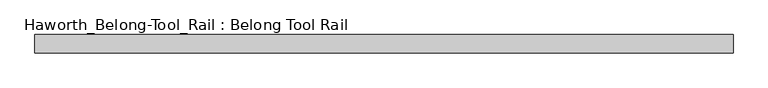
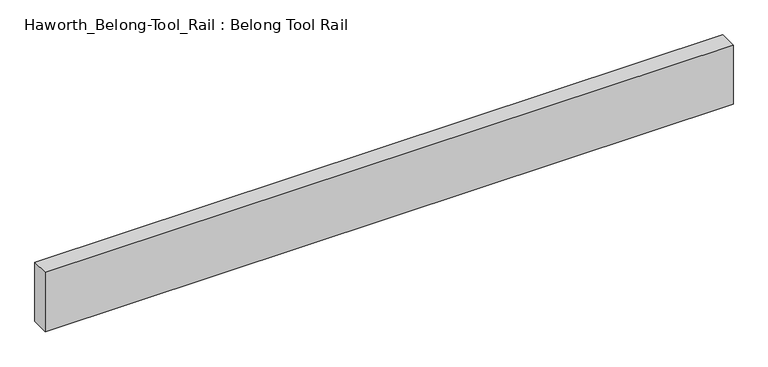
"""IFC4 building model written with IfcOpenShell, lengths in millimetres: furniture geometry, Haworth_Belong-Tool_Rail : Belong Tool Rail."""

from ifc_helpers import new_model, si_unit, frame, origin, place, context, project, spatial, polyline, outline, extrude, source, transform, mapped, element, save


def haworth_belong_tool_rail_belong_tool_rail_3fa934fc(model_context):
    return source(origin(), model_context, "Body", "SweptSolid", [
        extrude(outline(polyline([(609.6, 15.875), (609.6, -15.875), (-609.6, -15.875), (-609.6, 15.875), (609.6, 15.875)])), frame((0.0, 0.0, 950.9125), z_axis=(0.0, 0.0, 1.0), x_axis=(1.0, 0.0, 0.0)), (0.0, 0.0, 1.0), 111.125),
    ])


if __name__ == "__main__":
    model = new_model("IFC4")
    model_context = context("Model", 3, world=origin())
    ifc_project = project(units=[si_unit("LENGTHUNIT", "METRE", prefix="MILLI")], contexts=[model_context])
    site = spatial("IfcSite", under=ifc_project)
    building = spatial("IfcBuilding", under=site)
    placement = place(None, origin())
    haworth_belong_tool_rail_belong_tool_rail_shape = haworth_belong_tool_rail_belong_tool_rail_3fa934fc(model_context)
    element("IfcFurniture", 1, ObjectType="Haworth_Belong-Tool_Rail : Belong Tool Rail", at=placement, inside=building, context=model_context, shape_type="MappedRepresentation", body=[
        mapped(haworth_belong_tool_rail_belong_tool_rail_shape, transform((0.0, 0.0, 0.0), x_axis=(1.0, 0.0, 0.0), y_axis=(0.0, 1.0, 0.0), z_axis=(0.0, 0.0, 1.0))),
    ])
    save(model, "model.ifc")
